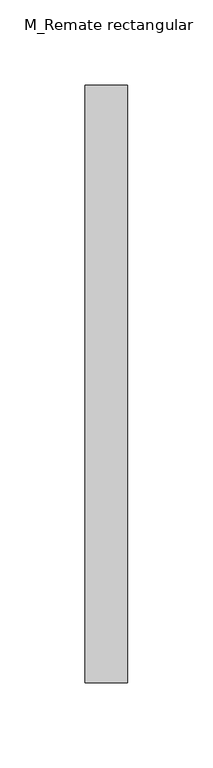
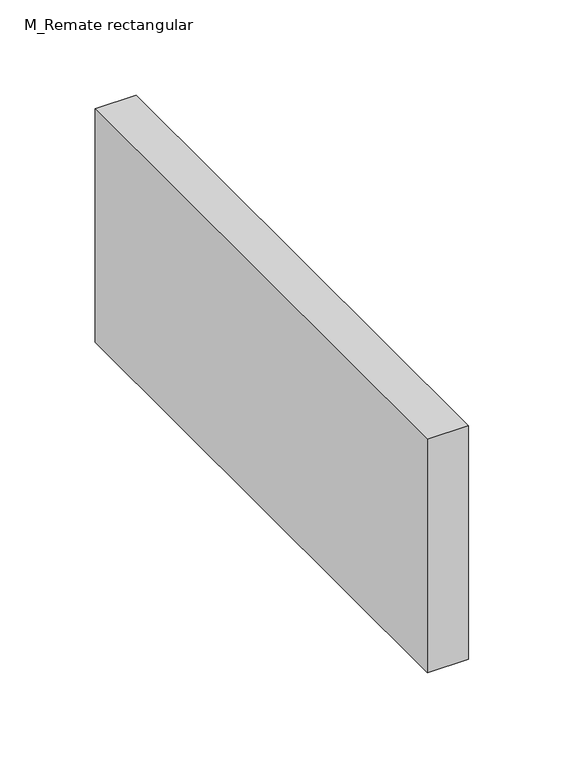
"""IFC4 building model written with IfcOpenShell, lengths in millimetres: duct fitting geometry, M_Remate rectangular : Estándar."""

from ifc_helpers import new_model, si_unit, frame, origin, place, context, project, spatial, polyline, outline, extrude, source, transform, mapped, element, save


def m_remate_rectangular_5068a14a(model_context):
    return source(origin(), model_context, "Body", "SweptSolid", [
        extrude(outline(polyline([(0.0, -175.0), (0.0, 175.0), (25.0, 175.0), (25.0, -175.0), (0.0, -175.0)])), frame((0.0, 0.0, -75.0), z_axis=(0.0, 0.0, 1.0), x_axis=(1.0, 0.0, 0.0)), (0.0, 0.0, 1.0), 150.0),
    ])


if __name__ == "__main__":
    model = new_model("IFC4")
    model_context = context("Model", 3, world=origin())
    ifc_project = project(units=[si_unit("LENGTHUNIT", "METRE", prefix="MILLI")], contexts=[model_context])
    site = spatial("IfcSite", under=ifc_project)
    building = spatial("IfcBuilding", under=site)
    placement = place(None, origin())
    m_remate_rectangular_shape = m_remate_rectangular_5068a14a(model_context)
    element("IfcDuctFitting", 1, ObjectType="M_Remate rectangular : Estándar", at=placement, inside=building, context=model_context, shape_type="MappedRepresentation", body=[
        mapped(m_remate_rectangular_shape, transform((0.0, 0.0, 0.0), x_axis=(1.0, 0.0, 0.0), y_axis=(0.0, 1.0, 0.0), z_axis=(0.0, 0.0, 1.0))),
    ])
    save(model, "model.ifc")
